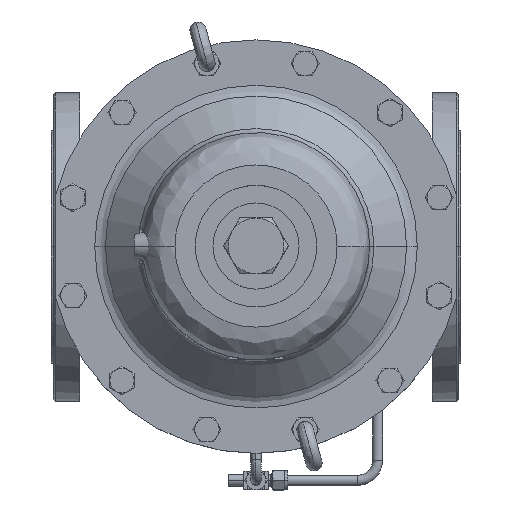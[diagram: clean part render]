
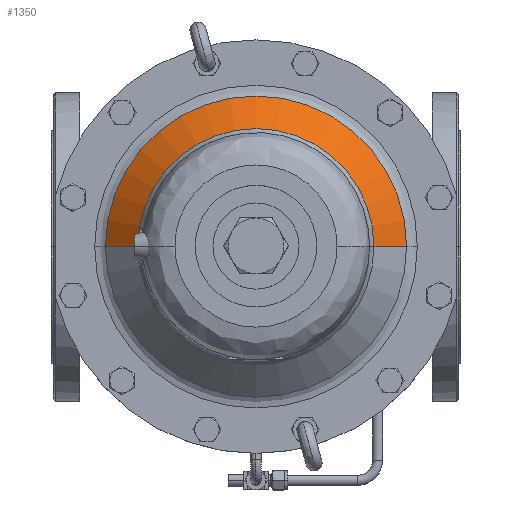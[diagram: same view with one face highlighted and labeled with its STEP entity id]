
A CAD part, top view. The second image highlights one B-rep face of the part: STEP entity #1350.
In plain terms, the highlighted free-form (B-spline) face has degree [2, 1] with [5, 2] control points.
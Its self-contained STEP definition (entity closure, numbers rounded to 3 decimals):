
#1350=ADVANCED_FACE('',(#5498),#5497,.T.);
#5497=( BOUNDED_SURFACE() B_SPLINE_SURFACE( 2,1,((#13198,#13199),(#13200,#13201),(#13202,#13203),(#13204,#13205),(#13206,#13207)), .UNSPECIFIED.,.F.,.F.,.F.) B_SPLINE_SURFACE_WITH_KNOTS((3,2,3),(2,2),(0.,0.5,1.),(0.,1.), .UNSPECIFIED. ) GEOMETRIC_REPRESENTATION_ITEM() RATIONAL_B_SPLINE_SURFACE(((1.,1.),(0.707,0.707),(1.,1.),(0.707,0.707),(1.,1.))) REPRESENTATION_ITEM('') SURFACE() );
#5498=FACE_OUTER_BOUND('',#13208,.T.);
#13198=CARTESIAN_POINT('',(0.,0.,186.971));
#13199=CARTESIAN_POINT('',(-210.12,0.,-23.149));
#13200=CARTESIAN_POINT('',(0.,0.,186.971));
#13201=CARTESIAN_POINT('',(-210.12,210.12,-23.149));
#13202=CARTESIAN_POINT('',(0.,0.,186.971));
#13203=CARTESIAN_POINT('',(0.,210.12,-23.149));
#13204=CARTESIAN_POINT('',(0.,0.,186.971));
#13205=CARTESIAN_POINT('',(210.12,210.12,-23.149));
#13206=CARTESIAN_POINT('',(0.,0.,186.971));
#13207=CARTESIAN_POINT('',(210.12,0.,-23.149));
#13208=EDGE_LOOP('',(#17603,#17604,#17605,#17606));
#17603=ORIENTED_EDGE('',*,*,#20113,.T.);
#17604=ORIENTED_EDGE('',*,*,#20110,.T.);
#17605=ORIENTED_EDGE('',*,*,#20109,.F.);
#17606=ORIENTED_EDGE('',*,*,#20112,.F.);
#20109=EDGE_CURVE('',#27616,#27609,#27629,.T.);
#20110=EDGE_CURVE('',#27635,#27609,#27636,.T.);
#20112=EDGE_CURVE('',#27642,#27616,#27649,.T.);
#20113=EDGE_CURVE('',#27642,#27635,#27655,.T.);
#27609=VERTEX_POINT('',#38885);
#27616=VERTEX_POINT('',#38889);
#27629=CIRCLE('',#38900,148.577);
#27635=VERTEX_POINT('',#38901);
#27636=(BOUNDED_CURVE() B_SPLINE_CURVE(1,(#38902,#38903),.UNSPECIFIED.,.F.,.F.) B_SPLINE_CURVE_WITH_KNOTS((2,2),(0.554,0.707),.UNSPECIFIED.) CURVE() GEOMETRIC_REPRESENTATION_ITEM() RATIONAL_B_SPLINE_CURVE((1.,1.)) REPRESENTATION_ITEM('') );
#27642=VERTEX_POINT('',#38904);
#27649=(BOUNDED_CURVE() B_SPLINE_CURVE(1,(#38909,#38910),.UNSPECIFIED.,.F.,.F.) B_SPLINE_CURVE_WITH_KNOTS((2,2),(0.554,0.707),.UNSPECIFIED.) CURVE() GEOMETRIC_REPRESENTATION_ITEM() RATIONAL_B_SPLINE_CURVE((0.75,0.75)) REPRESENTATION_ITEM('') );
#27655=CIRCLE('',#38914,116.393);
#38885=CARTESIAN_POINT('',(148.577,0.,38.393));
#38889=CARTESIAN_POINT('',(-148.577,0.,38.393));
#38897=CARTESIAN_POINT('',(0.,0.,38.393));
#38898=DIRECTION('',(0.,0.,-1.));
#38899=DIRECTION('',(-1.,0.,0.));
#38900=AXIS2_PLACEMENT_3D('',#38897,#38898,#38899);
#38901=CARTESIAN_POINT('',(116.393,0.,70.577));
#38902=CARTESIAN_POINT('',(116.393,0.,70.577));
#38903=CARTESIAN_POINT('',(148.577,0.,38.393));
#38904=CARTESIAN_POINT('',(-116.393,0.,70.577));
#38909=CARTESIAN_POINT('',(-116.393,0.,70.577));
#38910=CARTESIAN_POINT('',(-148.577,0.,38.393));
#38911=CARTESIAN_POINT('',(0.,0.,70.577));
#38912=DIRECTION('',(0.,0.,-1.));
#38913=DIRECTION('',(-1.,0.,0.));
#38914=AXIS2_PLACEMENT_3D('',#38911,#38912,#38913);
